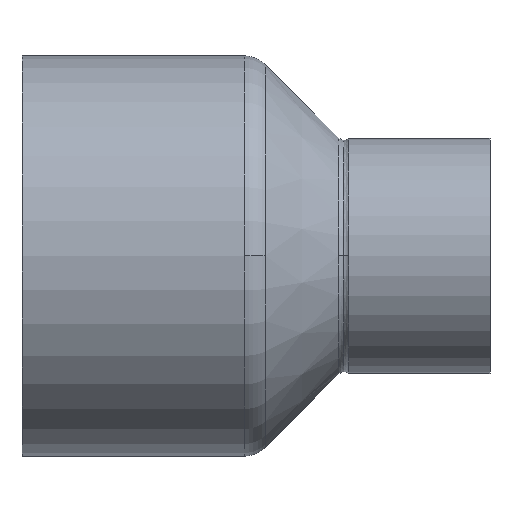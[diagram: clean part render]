
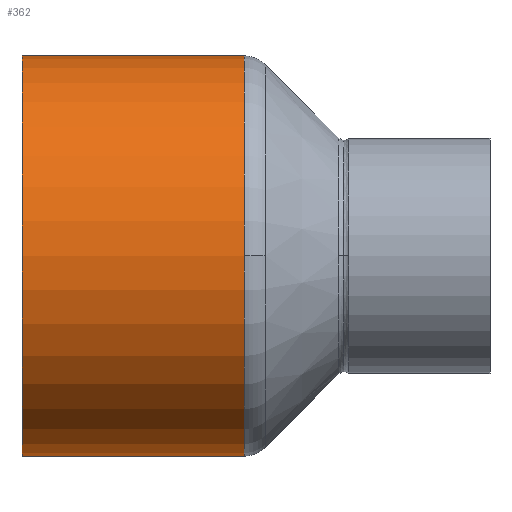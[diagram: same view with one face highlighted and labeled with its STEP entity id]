
A CAD part, top view. The second image highlights one B-rep face of the part: STEP entity #362.
In plain terms, the highlighted cylindrical face has radius 33.35 mm (diameter 66.7 mm), a partial arc.
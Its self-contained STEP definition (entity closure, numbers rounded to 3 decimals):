
#312=CARTESIAN_POINT('',(18.51,0.0,0.0));
#313=DIRECTION('',(1.0,0.0,0.0));
#314=DIRECTION('',(0.0,1.0,0.0));
#315=AXIS2_PLACEMENT_3D('',#312,#313,#314);
#316=CYLINDRICAL_SURFACE('',#315,33.35);
#317=CARTESIAN_POINT('',(0.,33.35,0.0));
#318=VERTEX_POINT('',#317);
#319=CARTESIAN_POINT('',(37.019,33.35,0.0));
#320=VERTEX_POINT('',#319);
#321=CARTESIAN_POINT('',(0.,33.35,0.0));
#322=DIRECTION('',(1.0,0.0,0.0));
#323=VECTOR('',#322,37.019);
#324=LINE('',#321,#323);
#325=EDGE_CURVE('',#318,#320,#324,.T.);
#326=ORIENTED_EDGE('',*,*,#325,.F.);
#327=CARTESIAN_POINT('',(0.,-33.35,0.));
#328=VERTEX_POINT('',#327);
#329=CARTESIAN_POINT('',(0.,0.0,0.0));
#330=DIRECTION('',(1.0,0.0,0.0));
#331=DIRECTION('',(0.0,1.0,0.0));
#332=AXIS2_PLACEMENT_3D('',#329,#330,#331);
#333=CIRCLE('',#332,33.35);
#334=EDGE_CURVE('',#318,#328,#333,.T.);
#335=ORIENTED_EDGE('',*,*,#334,.T.);
#336=CARTESIAN_POINT('',(37.019,-33.35,0.));
#337=VERTEX_POINT('',#336);
#338=CARTESIAN_POINT('',(37.019,-33.35,0.));
#339=DIRECTION('',(-1.0,0.0,0.0));
#340=VECTOR('',#339,37.019);
#341=LINE('',#338,#340);
#342=EDGE_CURVE('',#337,#328,#341,.T.);
#343=ORIENTED_EDGE('',*,*,#342,.F.);
#344=CARTESIAN_POINT('',(37.019,0.,33.35));
#345=VERTEX_POINT('',#344);
#346=CARTESIAN_POINT('',(37.019,0.0,0.0));
#347=DIRECTION('',(1.0,0.0,0.0));
#348=DIRECTION('',(0.0,1.0,0.0));
#349=AXIS2_PLACEMENT_3D('',#346,#347,#348);
#350=CIRCLE('',#349,33.35);
#351=EDGE_CURVE('',#345,#337,#350,.T.);
#352=ORIENTED_EDGE('',*,*,#351,.F.);
#353=CARTESIAN_POINT('',(37.019,0.0,0.0));
#354=DIRECTION('',(1.0,0.0,0.0));
#355=DIRECTION('',(0.0,1.0,0.0));
#356=AXIS2_PLACEMENT_3D('',#353,#354,#355);
#357=CIRCLE('',#356,33.35);
#358=EDGE_CURVE('',#320,#345,#357,.T.);
#359=ORIENTED_EDGE('',*,*,#358,.F.);
#360=EDGE_LOOP('',(#326,#335,#343,#352,#359));
#361=FACE_OUTER_BOUND('',#360,.T.);
#362=ADVANCED_FACE('',(#361),#316,.T.);
